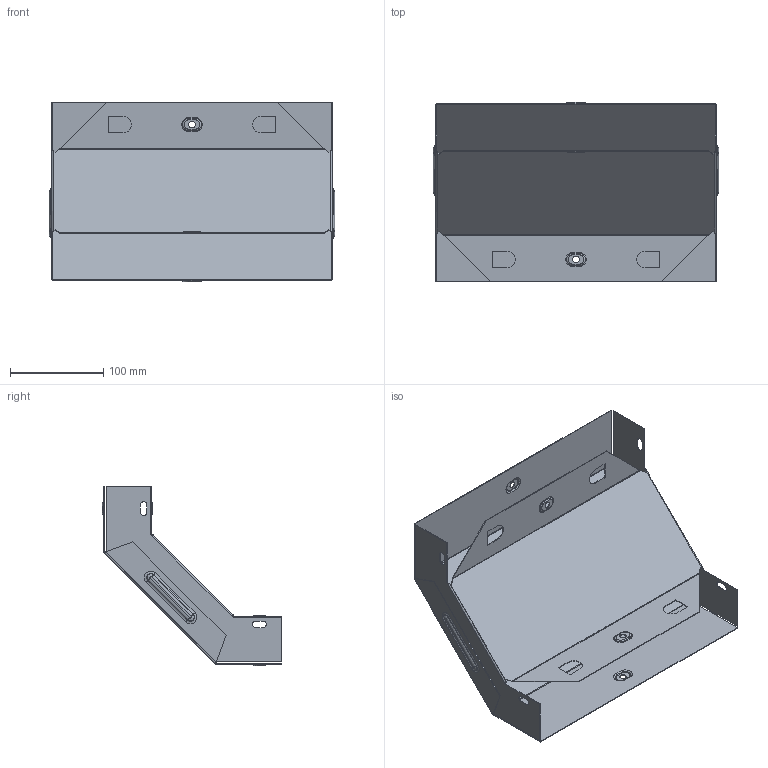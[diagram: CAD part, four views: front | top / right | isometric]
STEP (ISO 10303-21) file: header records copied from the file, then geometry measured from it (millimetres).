
FILE_DESCRIPTION (( 'STEP AP214' ), '1' );
FILE_NAME ('vo9050300_捘.STEP', '2019-06-10T09:09:21', ( '砐錪賧瘔蠈錪 Windows' ), ( '' ), 'SwSTEP 2.0', 'SolidWorks 2018', '' );
FILE_SCHEMA (( 'AUTOMOTIVE_DESIGN' ));
Length unit declared in the file: millimetre
Products named in the file (1): vo9050300_捘
Bounding box: 305.6 x 192.3 x 192.3 mm (x, y, z)
Volume: 149867.6 mm3; surface area: 377514.3 mm2
Topology: 2 solids, 2 shells, 278 faces, 654 edges, 396 vertices
Faces by surface type: plane 104, cylinder 102, torus 64, bspline 8
Entity records: 8173 total; most frequent: CARTESIAN_POINT 1577, DIRECTION 1448, ORIENTED_EDGE 1308, EDGE_CURVE 654, AXIS2_PLACEMENT_3D 555, VERTEX_POINT 396, LINE 338, VECTOR 338
